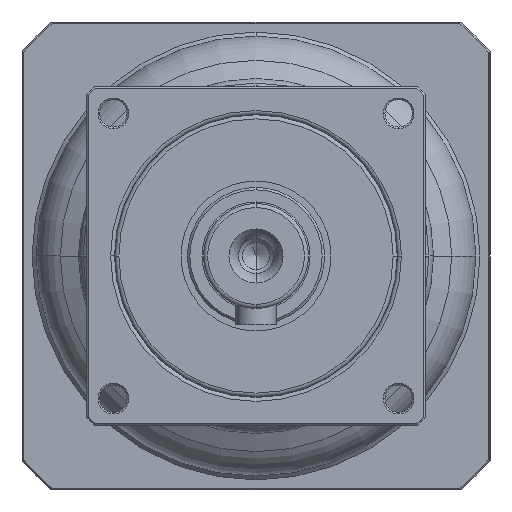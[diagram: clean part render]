
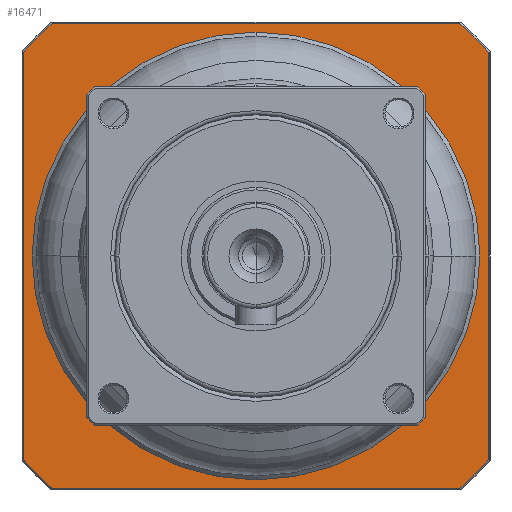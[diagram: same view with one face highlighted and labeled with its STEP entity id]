
A CAD part, left-side view. The second image highlights one B-rep face of the part: STEP entity #16471.
In plain terms, the highlighted planar face has unit normal (-1, 0, 0) as drawn and (0, 0, -1) by its records, which use the part's own axes.
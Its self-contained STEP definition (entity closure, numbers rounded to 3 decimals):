
#15236=CARTESIAN_POINT('',(0.,0.,
2.));
#15237=DIRECTION('',(0.,0.,-1.));
#15238=DIRECTION('',(0.,-1.,0.));
#15239=AXIS2_PLACEMENT_3D('',#15236,#15237,#15238);
#15241=CARTESIAN_POINT('',(0.,0.,
2.));
#15242=DIRECTION('',(0.,0.,-1.));
#15243=DIRECTION('',(0.,1.,0.));
#15244=AXIS2_PLACEMENT_3D('',#15241,#15242,#15243);
#15246=CARTESIAN_POINT('',(0.,0.,2.));
#15247=DIRECTION('',(0.,0.,1.));
#15248=DIRECTION('',(-0.752,-0.659,0.));
#15249=AXIS2_PLACEMENT_3D('',#15246,#15247,#15248);
#15251=DIRECTION('',(1.,0.,0.));
#15252=VECTOR('',#15251,50.496);
#15253=CARTESIAN_POINT('',(-25.248,-28.8,
2.));
#15254=LINE('',#15253,#15252);
#15255=CARTESIAN_POINT('',(0.,0.,2.));
#15256=DIRECTION('',(0.,0.,1.));
#15257=DIRECTION('',(0.659,-0.752,0.));
#15258=AXIS2_PLACEMENT_3D('',#15255,#15256,#15257);
#15260=DIRECTION('',(0.,1.,0.));
#15261=VECTOR('',#15260,50.496);
#15262=CARTESIAN_POINT('',(28.8,-25.248,
2.));
#15263=LINE('',#15262,#15261);
#15264=CARTESIAN_POINT('',(0.,0.,2.));
#15265=DIRECTION('',(0.,0.,1.));
#15266=DIRECTION('',(0.752,0.659,0.));
#15267=AXIS2_PLACEMENT_3D('',#15264,#15265,#15266);
#15269=DIRECTION('',(-1.,0.,0.));
#15270=VECTOR('',#15269,50.496);
#15271=CARTESIAN_POINT('',(25.248,28.8,2.));
#15272=LINE('',#15271,#15270);
#15273=CARTESIAN_POINT('',(0.,0.,2.));
#15274=DIRECTION('',(0.,0.,1.));
#15275=DIRECTION('',(-0.659,0.752,0.));
#15276=AXIS2_PLACEMENT_3D('',#15273,#15274,#15275);
#15278=DIRECTION('',(0.,-1.,0.));
#15279=VECTOR('',#15278,50.496);
#15280=CARTESIAN_POINT('',(-28.8,25.248,
2.));
#15281=LINE('',#15280,#15279);
#16118=CARTESIAN_POINT('',(0.,-27.75,2.));
#16119=CARTESIAN_POINT('',(0.,27.75,2.));
#16120=VERTEX_POINT('',#16118);
#16121=VERTEX_POINT('',#16119);
#16182=CARTESIAN_POINT('',(-28.8,-25.248,2.));
#16183=CARTESIAN_POINT('',(-25.248,-28.8,2.));
#16184=VERTEX_POINT('',#16182);
#16185=VERTEX_POINT('',#16183);
#16190=CARTESIAN_POINT('',(25.248,-28.8,
2.));
#16191=VERTEX_POINT('',#16190);
#16194=CARTESIAN_POINT('',(28.8,-25.248,2.));
#16195=VERTEX_POINT('',#16194);
#16198=CARTESIAN_POINT('',(28.8,25.248,2.));
#16199=VERTEX_POINT('',#16198);
#16202=CARTESIAN_POINT('',(25.248,28.8,2.));
#16203=VERTEX_POINT('',#16202);
#16206=CARTESIAN_POINT('',(-25.248,28.8,
2.));
#16207=VERTEX_POINT('',#16206);
#16212=CARTESIAN_POINT('',(-28.8,25.248,2.));
#16213=VERTEX_POINT('',#16212);
#16443=CARTESIAN_POINT('',(0.,0.,2.));
#16444=DIRECTION('',(0.,0.,1.));
#16445=DIRECTION('',(0.,1.,0.));
#16446=AXIS2_PLACEMENT_3D('',#16443,#16444,#16445);
#16447=PLANE('',#16446);
#16449=ORIENTED_EDGE('',*,*,#16448,.T.);
#16451=ORIENTED_EDGE('',*,*,#16450,.T.);
#16453=ORIENTED_EDGE('',*,*,#16452,.T.);
#16455=ORIENTED_EDGE('',*,*,#16454,.T.);
#16457=ORIENTED_EDGE('',*,*,#16456,.T.);
#16459=ORIENTED_EDGE('',*,*,#16458,.T.);
#16461=ORIENTED_EDGE('',*,*,#16460,.T.);
#16463=ORIENTED_EDGE('',*,*,#16462,.T.);
#16464=EDGE_LOOP('',(#16449,#16451,#16453,#16455,#16457,#16459,#16461,#16463));
#16465=FACE_OUTER_BOUND('',#16464,.F.);
#16467=ORIENTED_EDGE('',*,*,#16466,.T.);
#16468=ORIENTED_EDGE('',*,*,#16433,.T.);
#16469=EDGE_LOOP('',(#16467,#16468));
#16470=FACE_BOUND('',#16469,.F.);
#16471=ADVANCED_FACE('',(#16465,#16470),#16447,.F.);
#15240=CIRCLE('',#15239,27.75);
#15245=CIRCLE('',#15244,27.75);
#15250=CIRCLE('',#15249,38.3);
#15259=CIRCLE('',#15258,38.3);
#15268=CIRCLE('',#15267,38.3);
#15277=CIRCLE('',#15276,38.3);
#16433=EDGE_CURVE('',#16121,#16120,#15245,.T.);
#16448=EDGE_CURVE('',#16184,#16185,#15250,.T.);
#16450=EDGE_CURVE('',#16185,#16191,#15254,.T.);
#16452=EDGE_CURVE('',#16191,#16195,#15259,.T.);
#16454=EDGE_CURVE('',#16195,#16199,#15263,.T.);
#16456=EDGE_CURVE('',#16199,#16203,#15268,.T.);
#16458=EDGE_CURVE('',#16203,#16207,#15272,.T.);
#16460=EDGE_CURVE('',#16207,#16213,#15277,.T.);
#16462=EDGE_CURVE('',#16213,#16184,#15281,.T.);
#16466=EDGE_CURVE('',#16120,#16121,#15240,.T.);
